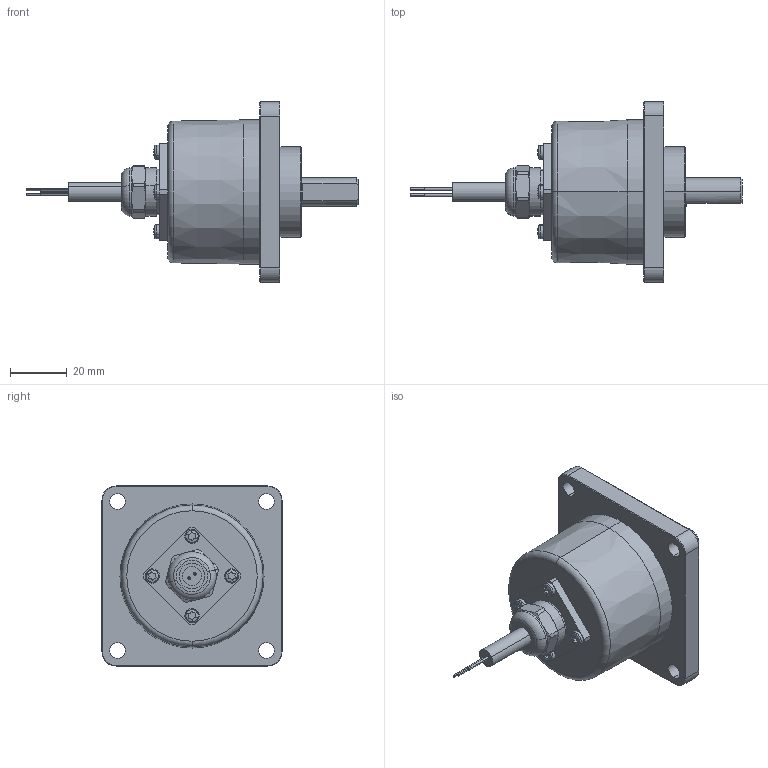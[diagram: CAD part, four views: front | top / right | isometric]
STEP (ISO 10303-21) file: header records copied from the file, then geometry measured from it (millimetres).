
FILE_DESCRIPTION (( 'STEP AP214' ), '1' );
FILE_NAME ('5000.3DX1.XXXX.STEP', '2011-01-04T09:22:42', ( 'admin' ), ( 'Fritz Kübler GmbH' ), 'SwSTEP 2.0', 'SolidWorks 2009', '' );
FILE_SCHEMA (( 'AUTOMOTIVE_DESIGN' ));
Length unit declared in the file: millimetre
Products named in the file (1): 5000.3DX1.XXXX
Bounding box: 117 x 63.5 x 63.5 mm (x, y, z)
Surface area: 21545 mm2 (no closed solid volume)
Topology: 0 solids, 13 shells, 236 faces, 654 edges, 418 vertices
Faces by surface type: plane 99, cylinder 61, cone 28, sphere 28, torus 20
Entity records: 10528 total; most frequent: CARTESIAN_POINT 2041, DIRECTION 1310, ORIENTED_EDGE 1125, EDGE_CURVE 602, AXIS2_PLACEMENT_3D 533, VERTEX_POINT 388, CIRCLE 296, EDGE_LOOP 288
